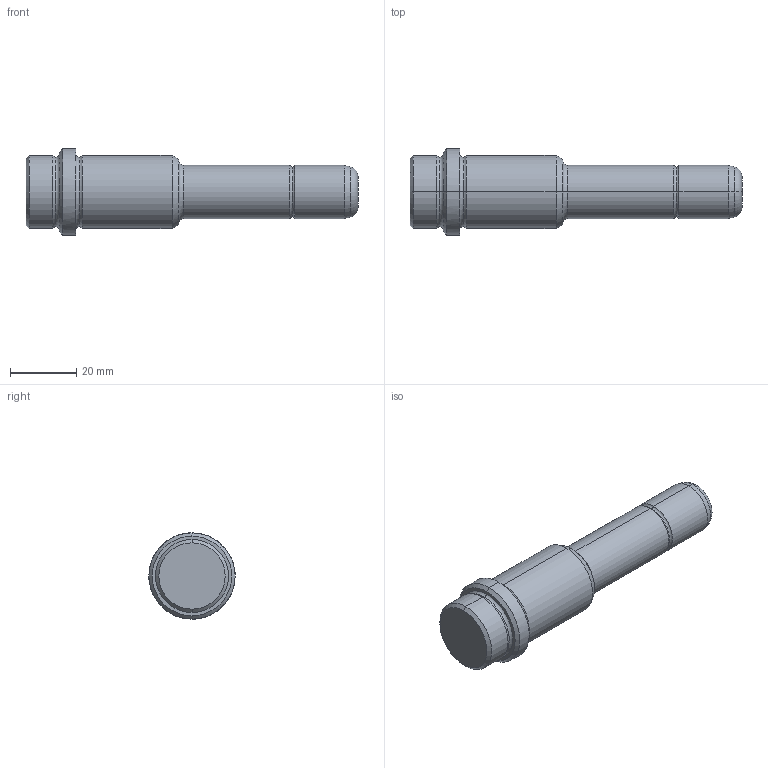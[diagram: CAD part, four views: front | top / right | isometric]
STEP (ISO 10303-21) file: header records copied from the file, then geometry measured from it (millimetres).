
FILE_DESCRIPTION(('CATIA V5 STEP Exchange'),'2;1');
FILE_NAME('C:\Users\Utente\Desktop\IO LAVORO\3D X SITO CF\X SITO\PLASTICA\357\357-16X46X100.stp','2021-08-14T09:06:47+00:00',('none'),('none'),'CATIA Version 5 Release 20 GA (IN-10)','CATIA V5 STEP AP203','none');
FILE_SCHEMA(('CONFIG_CONTROL_DESIGN'));
Length unit declared in the file: millimetre
Products named in the file (1): 357-16X46X100
Bounding box: 100 x 26 x 26 mm (x, y, z)
Volume: 28705 mm3; surface area: 6796.9 mm2
Topology: 1 solids, 1 shells, 39 faces, 112 edges, 78 vertices
Faces by surface type: torus 16, cylinder 10, cone 8, plane 5
Entity records: 1404 total; most frequent: CARTESIAN_POINT 342, ORIENTED_EDGE 224, DIRECTION 182, AXIS2_PLACEMENT_3D 126, EDGE_CURVE 112, CIRCLE 86, VERTEX_POINT 78, EDGE_LOOP 42
